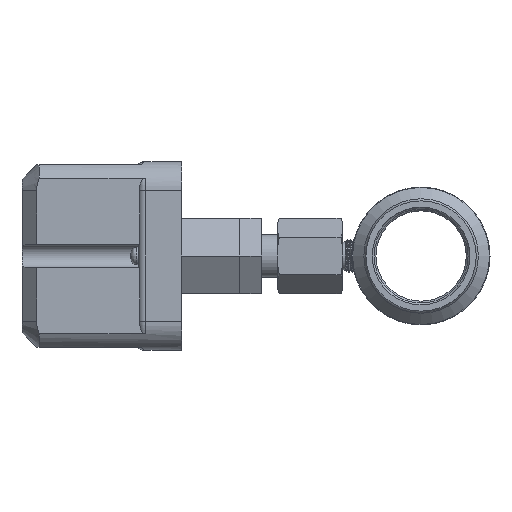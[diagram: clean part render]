
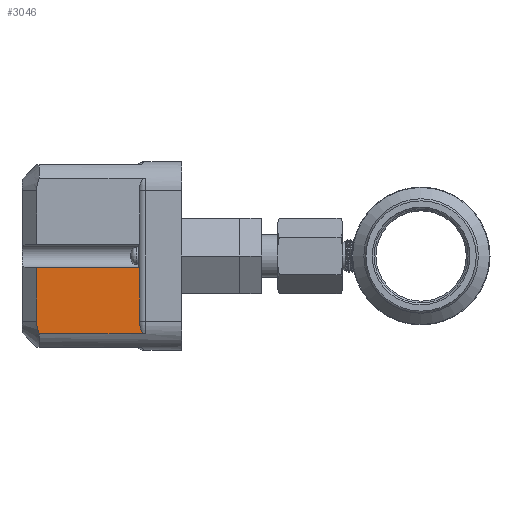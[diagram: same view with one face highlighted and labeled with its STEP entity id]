
A CAD part, left-side view. The second image highlights one B-rep face of the part: STEP entity #3046.
In plain terms, the highlighted planar face has unit normal (-1, 0, 0).
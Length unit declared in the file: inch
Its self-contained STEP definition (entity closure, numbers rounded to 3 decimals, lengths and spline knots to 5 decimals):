
#21=(
BOUNDED_CURVE()
B_SPLINE_CURVE(2,(#6813,#6814,#6815),.UNSPECIFIED.,.F.,.F.)
B_SPLINE_CURVE_WITH_KNOTS((3,3),(0.,0.56796),.UNSPECIFIED.)
CURVE()
GEOMETRIC_REPRESENTATION_ITEM()
RATIONAL_B_SPLINE_CURVE((1.,1.056,1.056))
REPRESENTATION_ITEM('')
);
#116=PLANE('',#3279);
#254=FACE_OUTER_BOUND('',#426,.T.);
#426=EDGE_LOOP('',(#2176,#2177,#2178,#2179,#2180,#2181));
#743=B_SPLINE_CURVE_WITH_KNOTS('',3,(#6348,#6349,#6350,#6351,#6352,#6353,
#6354,#6355,#6356,#6357),.UNSPECIFIED.,.F.,.F.,(4,2,2,2,4),(1.87788,
1.93303,2.00242,2.11115,2.50384),
 .UNSPECIFIED.);
#859=LINE('',#6325,#1019);
#872=LINE('',#6563,#1032);
#898=LINE('',#6810,#1058);
#899=LINE('',#6812,#1059);
#1019=VECTOR('',#3690,0.3937);
#1032=VECTOR('',#3731,0.3937);
#1058=VECTOR('',#3809,0.3937);
#1059=VECTOR('',#3810,0.3937);
#1209=VERTEX_POINT('',#6322);
#1210=VERTEX_POINT('',#6324);
#1215=VERTEX_POINT('',#6347);
#1234=VERTEX_POINT('',#6562);
#1265=VERTEX_POINT('',#6809);
#1266=VERTEX_POINT('',#6811);
#1539=EDGE_CURVE('',#1209,#1210,#859,.F.);
#1546=EDGE_CURVE('',#1210,#1215,#743,.F.);
#1570=EDGE_CURVE('',#1215,#1234,#872,.T.);
#1618=EDGE_CURVE('',#1209,#1265,#898,.T.);
#1619=EDGE_CURVE('',#1266,#1265,#899,.T.);
#1620=EDGE_CURVE('',#1234,#1266,#21,.T.);
#2176=ORIENTED_EDGE('',*,*,#1570,.F.);
#2177=ORIENTED_EDGE('',*,*,#1546,.F.);
#2178=ORIENTED_EDGE('',*,*,#1539,.F.);
#2179=ORIENTED_EDGE('',*,*,#1618,.T.);
#2180=ORIENTED_EDGE('',*,*,#1619,.F.);
#2181=ORIENTED_EDGE('',*,*,#1620,.F.);
#3046=ADVANCED_FACE('',(#254),#116,.T.);
#3279=AXIS2_PLACEMENT_3D('',#6808,#3807,#3808);
#3690=DIRECTION('',(0.,0.,1.));
#3731=DIRECTION('',(0.,1.,0.));
#3807=DIRECTION('center_axis',(-1.,0.,0.));
#3808=DIRECTION('ref_axis',(0.,0.,-1.));
#3809=DIRECTION('',(0.,1.,0.));
#3810=DIRECTION('',(0.,0.,1.));
#6322=CARTESIAN_POINT('',(8.57305,9.28692,3.4875));
#6324=CARTESIAN_POINT('',(8.57305,9.28692,2.5625));
#6325=CARTESIAN_POINT('',(8.57305,9.28692,3.125));
#6347=CARTESIAN_POINT('',(8.57305,9.18692,2.34456));
#6348=CARTESIAN_POINT('Ctrl Pts',(8.57305,9.18692,2.34456));
#6349=CARTESIAN_POINT('Ctrl Pts',(8.57305,9.19416,2.34456));
#6350=CARTESIAN_POINT('Ctrl Pts',(8.57305,9.20264,2.3464));
#6351=CARTESIAN_POINT('Ctrl Pts',(8.57305,9.21768,2.35279));
#6352=CARTESIAN_POINT('Ctrl Pts',(8.57305,9.22654,2.3592));
#6353=CARTESIAN_POINT('Ctrl Pts',(8.57305,9.24315,2.37564));
#6354=CARTESIAN_POINT('Ctrl Pts',(8.57305,9.25238,2.39006));
#6355=CARTESIAN_POINT('Ctrl Pts',(8.57305,9.28076,2.44943));
#6356=CARTESIAN_POINT('Ctrl Pts',(8.57305,9.28692,2.51097));
#6357=CARTESIAN_POINT('Ctrl Pts',(8.57305,9.28692,2.5625));
#6562=CARTESIAN_POINT('',(8.57305,11.01192,2.34456));
#6563=CARTESIAN_POINT('',(8.57305,8.56192,2.34456));
#6808=CARTESIAN_POINT('Origin',(8.57305,11.31192,5.2625));
#6809=CARTESIAN_POINT('',(8.57305,11.06192,3.4875));
#6810=CARTESIAN_POINT('',(8.57305,11.31192,3.4875));
#6811=CARTESIAN_POINT('',(8.57305,11.06192,2.5625));
#6812=CARTESIAN_POINT('',(8.57305,11.06192,4.19375));
#6813=CARTESIAN_POINT('Ctrl Pts',(8.57305,11.01192,2.34456));
#6814=CARTESIAN_POINT('Ctrl Pts',(8.57305,11.06192,2.45926));
#6815=CARTESIAN_POINT('Ctrl Pts',(8.57305,11.06192,2.5625));
